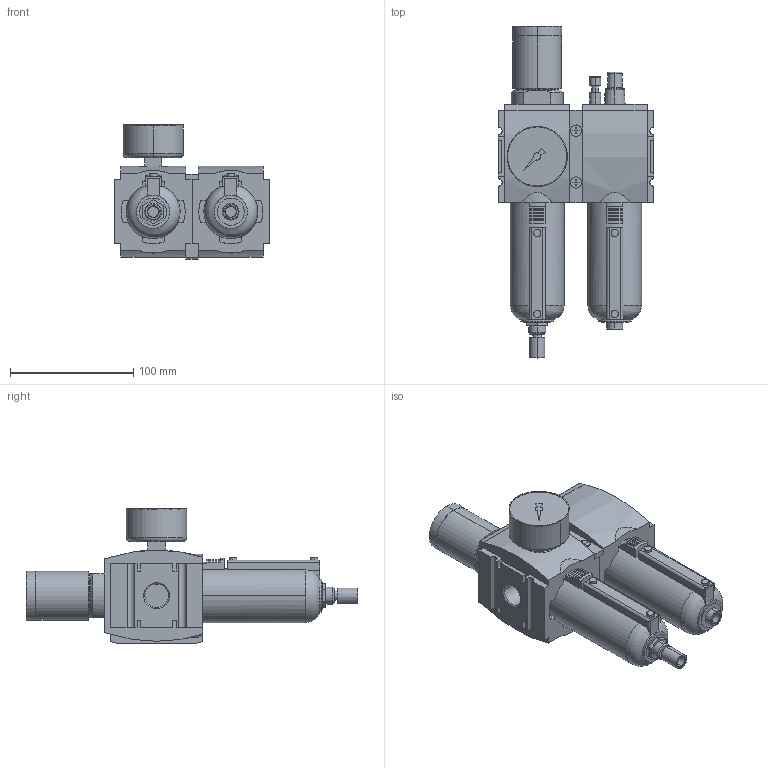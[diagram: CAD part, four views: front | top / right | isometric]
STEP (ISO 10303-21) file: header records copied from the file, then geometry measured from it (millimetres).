
FILE_DESCRIPTION((''),'2;1');
FILE_NAME('R412007315_ASM','2019-08-20T',('PDH2HC'),(''),'CREO PARAMETRIC BY PTC INC, 2016260','CREO PARAMETRIC BY PTC INC, 2016260','');
FILE_SCHEMA(('CONFIG_CONTROL_DESIGN'));
Length unit declared in the file: millimetre
Products named in the file (7): R412007217; AS3_RES_METAL_FILTER_FULLY; R412004417; R412007371; R412007235; AS3_RES_METAL_LUBRICATOR; R412007315_ASM
Assembly tree (6 placements, depth 2):
  R412007315_ASM
    R412007217
    AS3_RES_METAL_FILTER_FULLY
    R412004417
    R412007371
    R412007235
    AS3_RES_METAL_LUBRICATOR
Bounding box: 126 x 269.5 x 109 mm (x, y, z)
Volume: 869142.3 mm3; surface area: 175834.2 mm2
Topology: 6 solids, 6 shells, 563 faces, 1445 edges, 950 vertices
Faces by surface type: plane 355, cylinder 154, cone 30, torus 18, bspline 6
Entity records: 17966 total; most frequent: CARTESIAN_POINT 3723, DIRECTION 2999, ORIENTED_EDGE 2890, EDGE_CURVE 1445, AXIS2_PLACEMENT_3D 1014, VECTOR 971, LINE 971, VERTEX_POINT 950
